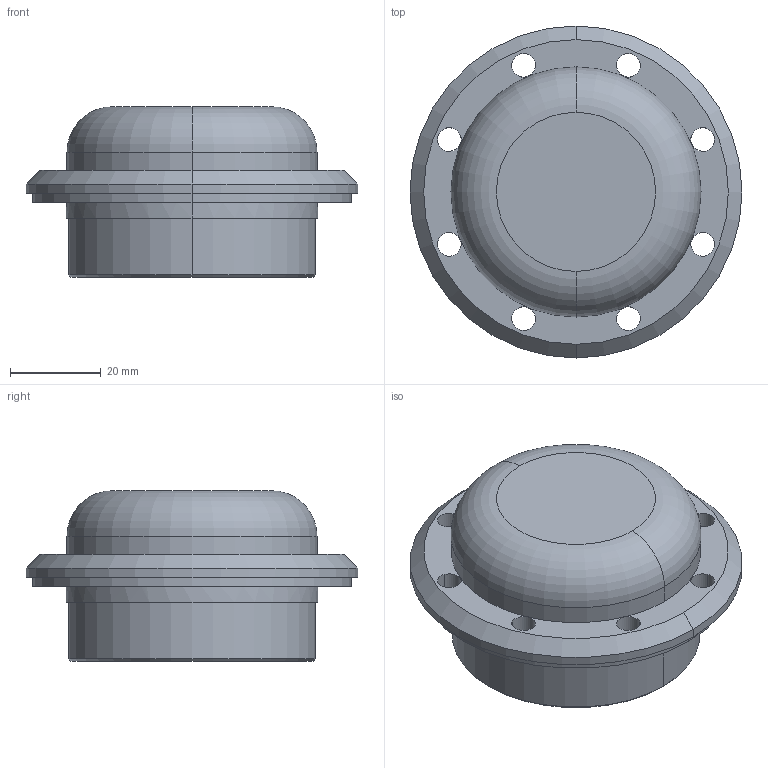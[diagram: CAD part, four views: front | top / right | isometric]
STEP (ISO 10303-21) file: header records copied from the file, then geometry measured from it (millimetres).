
FILE_DESCRIPTION(/* description */ ('(C) Elphel, Inc. 2012. Licensed under CERN OHL v.1.1 or later, see http://ohwr.org/cernohl'),/* implementation_level */ '2;1');
FILE_NAME(/* name */ '0353-11-132A',/* time_stamp */ '2012-02-04T23:43:22-07:00',/* author */ (''),/* organization */ ('Elphel, Inc'),/* preprocessor_version */ 'ST-DEVELOPER v12',/* originating_system */ 'VariCAD 2010-3.03; kernel version (20100102)',/* authorisation */ '');
FILE_SCHEMA (('AUTOMOTIVE_DESIGN'));
Length unit declared in the file: millimetre
Products named in the file (1): Part
Bounding box: 73 x 73 x 37.5 mm (x, y, z)
Volume: 42370.5 mm3; surface area: 19628.5 mm2
Topology: 5 solids, 5 shells, 104 faces, 238 edges, 146 vertices
Faces by surface type: cylinder 62, plane 28, cone 12, torus 2
Entity records: 3830 total; most frequent: DIRECTION 622, CARTESIAN_POINT 494, ORIENTED_EDGE 476, AXIS2_PLACEMENT_3D 274, EDGE_CURVE 238, CIRCLE 164, VERTEX_POINT 146, EDGE_LOOP 130
